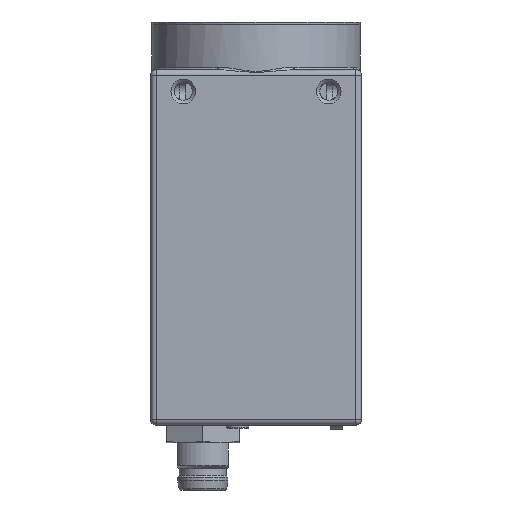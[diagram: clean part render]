
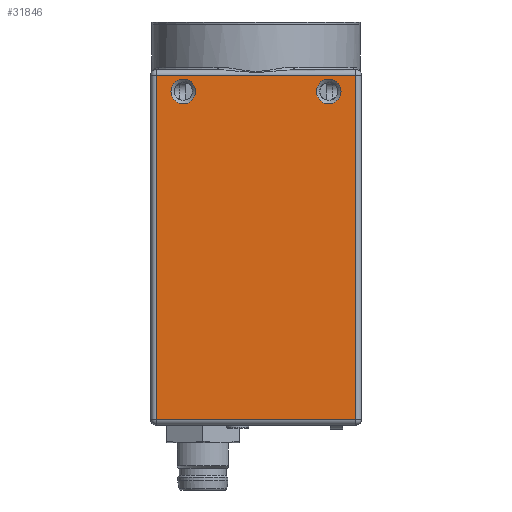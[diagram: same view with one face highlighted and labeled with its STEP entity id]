
A CAD part, left-side view. The second image highlights one B-rep face of the part: STEP entity #31846.
In plain terms, the highlighted planar face has unit normal (-1, 0, 0).
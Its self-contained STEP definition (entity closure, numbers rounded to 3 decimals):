
#1062=CIRCLE('',#33582,1.7);
#1063=CIRCLE('',#33584,1.7);
#1770=PLANE('',#33749);
#2963=LINE('',#45137,#5008);
#2976=LINE('',#45183,#5021);
#2984=LINE('',#45246,#5029);
#3054=LINE('',#45694,#5099);
#5008=VECTOR('',#37649,1000.);
#5021=VECTOR('',#37704,1000.);
#5029=VECTOR('',#37756,1000.);
#5099=VECTOR('',#38078,1000.);
#9175=ORIENTED_EDGE('',*,*,#14572,.T.);
#9176=ORIENTED_EDGE('',*,*,#14571,.T.);
#9177=ORIENTED_EDGE('',*,*,#14770,.T.);
#9178=ORIENTED_EDGE('',*,*,#14591,.T.);
#9179=ORIENTED_EDGE('',*,*,#14570,.T.);
#9180=ORIENTED_EDGE('',*,*,#14613,.T.);
#14570=EDGE_CURVE('',#17466,#17475,#2963,.T.);
#14571=EDGE_CURVE('',#17490,#17490,#1062,.T.);
#14572=EDGE_CURVE('',#17491,#17491,#1063,.T.);
#14591=EDGE_CURVE('',#17502,#17466,#2976,.F.);
#14613=EDGE_CURVE('',#17475,#17513,#2984,.T.);
#14770=EDGE_CURVE('',#17513,#17502,#3054,.T.);
#17466=VERTEX_POINT('',#45045);
#17475=VERTEX_POINT('',#45070);
#17490=VERTEX_POINT('',#45140);
#17491=VERTEX_POINT('',#45143);
#17502=VERTEX_POINT('',#45184);
#17513=VERTEX_POINT('',#45245);
#19505=EDGE_LOOP('',(#9175));
#19506=EDGE_LOOP('',(#9176));
#19507=EDGE_LOOP('',(#9177,#9178,#9179,#9180));
#20988=FACE_BOUND('',#19505,.T.);
#20989=FACE_BOUND('',#19506,.T.);
#20990=FACE_BOUND('',#19507,.T.);
#31846=ADVANCED_FACE('',(#20988,#20989,#20990),#1770,.T.);
#33582=AXIS2_PLACEMENT_3D('',#45139,#37652,#37653);
#33584=AXIS2_PLACEMENT_3D('',#45142,#37656,#37657);
#33749=AXIS2_PLACEMENT_3D('',#45693,#38076,#38077);
#37649=DIRECTION('',(0.,1.,0.));
#37652=DIRECTION('',(1.,0.,0.));
#37653=DIRECTION('',(0.,1.,0.));
#37656=DIRECTION('',(1.,0.,0.));
#37657=DIRECTION('',(0.,1.,0.));
#37704=DIRECTION('',(0.,0.,-1.));
#37756=DIRECTION('',(0.,0.,-1.));
#38076=DIRECTION('',(-1.,0.,0.));
#38077=DIRECTION('',(0.,0.,1.));
#38078=DIRECTION('',(0.,-1.,0.));
#45045=CARTESIAN_POINT('',(-14.5,-13.7,11.4));
#45070=CARTESIAN_POINT('',(-14.5,13.7,11.4));
#45137=CARTESIAN_POINT('',(-14.5,14.5,11.4));
#45139=CARTESIAN_POINT('',(-14.5,10.,9.2));
#45140=CARTESIAN_POINT('',(-14.5,11.7,9.2));
#45142=CARTESIAN_POINT('',(-14.5,-10.,9.2));
#45143=CARTESIAN_POINT('',(-14.5,-8.3,9.2));
#45183=CARTESIAN_POINT('',(-14.5,-13.7,12.2));
#45184=CARTESIAN_POINT('',(-14.5,-13.7,-35.9));
#45245=CARTESIAN_POINT('',(-14.5,13.7,-35.9));
#45246=CARTESIAN_POINT('',(-14.5,13.7,12.2));
#45693=CARTESIAN_POINT('',(-14.5,-14.5,12.2));
#45694=CARTESIAN_POINT('',(-14.5,-14.5,-35.9));
